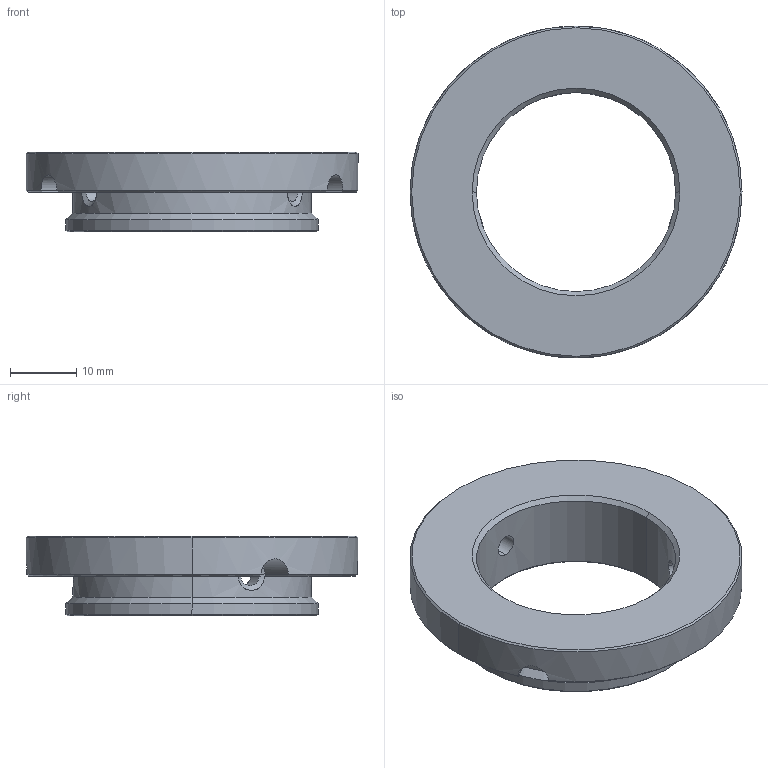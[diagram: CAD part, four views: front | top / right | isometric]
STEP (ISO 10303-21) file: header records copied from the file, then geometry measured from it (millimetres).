
FILE_DESCRIPTION (( 'STEP AP214' ), '1' );
FILE_NAME ('C60-RING-30mm-F (C60-TFMI-FLT ADPTR).STEP', '2026-01-16T20:28:36', ( '' ), ( '' ), 'SwSTEP 2.0', 'SolidWorks 2025', '' );
FILE_SCHEMA (( 'AUTOMOTIVE_DESIGN' ));
Length unit declared in the file: inch
Products named in the file (1): C60-RING-30mm-F (C60-TFMI-FLT ADPTR)
Bounding box: 50.01 x 50.01 x 12 mm (x, y, z)
Volume: 9356.1 mm3; surface area: 5434 mm2
Topology: 1 solids, 1 shells, 50 faces, 129 edges, 78 vertices
Faces by surface type: cylinder 25, cone 20, plane 5
Entity records: 1862 total; most frequent: CARTESIAN_POINT 634, ORIENTED_EDGE 258, DIRECTION 248, EDGE_CURVE 129, AXIS2_PLACEMENT_3D 103, VERTEX_POINT 78, EDGE_LOOP 55, CIRCLE 52
